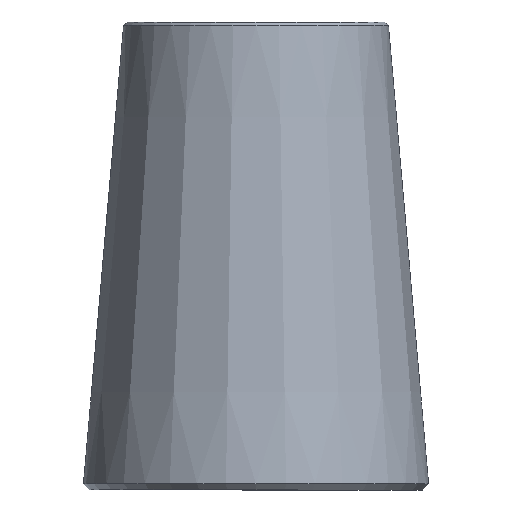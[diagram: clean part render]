
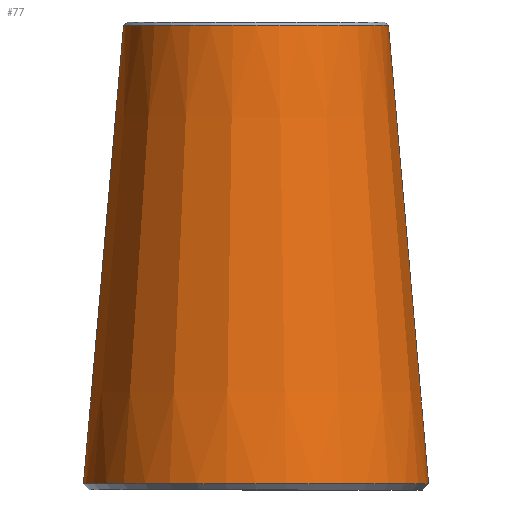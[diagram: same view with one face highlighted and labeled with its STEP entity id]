
A CAD part, left-side view. The second image highlights one B-rep face of the part: STEP entity #77.
In plain terms, the highlighted conical face has half-angle 5 degrees and reference radius 23.807 mm.
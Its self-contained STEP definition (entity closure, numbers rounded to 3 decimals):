
#20=FACE_BOUND('',#34,.T.);
#25=FACE_OUTER_BOUND('',#33,.T.);
#33=EDGE_LOOP('',(#63));
#34=EDGE_LOOP('',(#64));
#43=CIRCLE('',#86,20.657);
#45=CIRCLE('',#89,26.913);
#49=VERTEX_POINT('',#128);
#51=VERTEX_POINT('',#133);
#55=EDGE_CURVE('',#49,#49,#43,.T.);
#57=EDGE_CURVE('',#51,#51,#45,.T.);
#63=ORIENTED_EDGE('',*,*,#57,.F.);
#64=ORIENTED_EDGE('',*,*,#55,.F.);
#74=CONICAL_SURFACE('',#88,23.807,5.);
#77=ADVANCED_FACE('',(#25,#20),#74,.T.);
#86=AXIS2_PLACEMENT_3D('',#129,#102,#103);
#88=AXIS2_PLACEMENT_3D('',#132,#106,#107);
#89=AXIS2_PLACEMENT_3D('',#134,#108,#109);
#102=DIRECTION('center_axis',(0.,0.,
1.));
#103=DIRECTION('ref_axis',(0.,1.,0.));
#106=DIRECTION('center_axis',(0.,0.,-1.));
#107=DIRECTION('ref_axis',(0.,-1.,0.));
#108=DIRECTION('center_axis',(0.,0.,
-1.));
#109=DIRECTION('ref_axis',(0.,1.,0.));
#128=CARTESIAN_POINT('',(0.,-20.657,72.502));
#129=CARTESIAN_POINT('Origin',(0.,0.,
72.502));
#132=CARTESIAN_POINT('Origin',(0.,0.,36.5));
#133=CARTESIAN_POINT('',(0.,-26.913,0.996));
#134=CARTESIAN_POINT('Origin',(0.,0.,
0.996));
